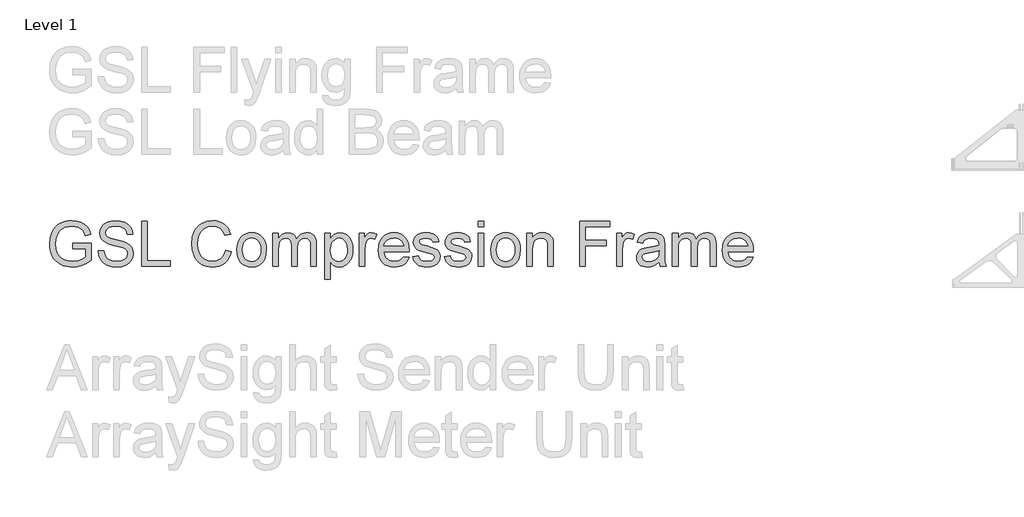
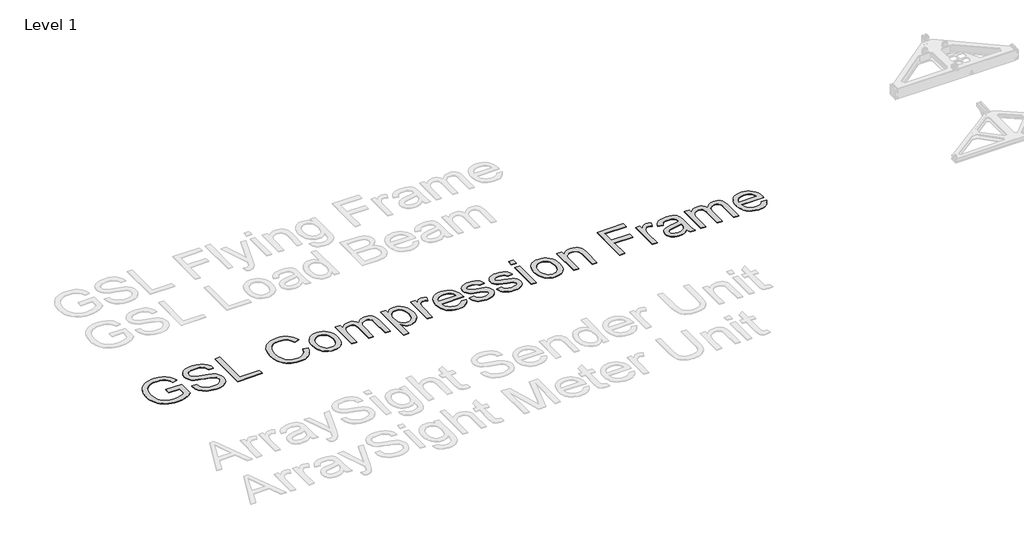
# One storey, part 19 of 52: 1 proxy.
"""IFC4 building model written with IfcOpenShell, lengths in millimetres."""

from ifc_helpers import new_model, si_unit, origin, origin_with_axes, place, context, project, spatial, polyline, outline, extrude, element, save

model = new_model("IFC4")

# Units and contexts
model_context = context("Model", 3, world=origin())
ifc_project = project(units=[si_unit("LENGTHUNIT", "METRE", prefix="MILLI")], contexts=[model_context])

# Site, building, storey
site = spatial("IfcSite", under=ifc_project)
building = spatial("IfcBuilding", under=site)
storey = spatial("IfcBuildingStorey", under=building, Name="Level 1", Elevation=0.0)

# Proxy
placement = place(None, origin())
element("IfcBuildingElementProxy", 1, Name="400mm Arial", ObjectType="400mm Arial", at=placement, inside=storey, context=model_context, shape_type="SweptSolid", body=[
    extrude(outline(polyline([(-18762.7159242, -52399.7229199), (-18762.7159242, -52349.4947649), (-18599.4744202, -52349.4947649), (-18599.4744202, -52499.6887208), (-18639.144362, -52527.2798704), (-18680.0651026, -52547.0719217), (-18722.1385402, -52558.9912984), (-18765.2665727, -52562.9644239), (-18794.1177182, -52561.385597), (-18821.6138317, -52556.6491164), (-18847.7549131, -52548.7549819), (-18872.5409625, -52537.7031936), (-18895.1718366, -52523.6592984), (-18914.847392, -52506.7888433), (-18931.5676286, -52487.0918281), (-18945.3325466, -52464.568253), (-18956.0838979, -52439.9385534), (-18963.7634346, -52413.923165), (-18968.3711566, -52386.5220877), (-18969.9070639, -52357.7353216), (-18963.7879601, -52301.142808), (-18956.1390802, -52274.3272762), (-18945.4306485, -52248.4988945), (-18931.8527372, -52224.7919656), (-18915.5954187, -52204.3407923), (-18896.658693, -52187.1453747), (-18875.0425601, -52173.2057128), (-18851.2160695, -52162.4329017), (-18825.6482709, -52154.7380366), (-18798.3391641, -52150.1211176), (-18769.2887492, -52148.5821446), (-18727.9142875, -52152.1505999), (-18690.709155, -52162.855966), (-18659.3778718, -52179.9256906), (-18635.6249576, -52202.5872215), (-18618.052461, -52231.9319419), (-18605.2624303, -52269.0512353), (-18651.5665107, -52282.0987834), (-18661.9039948, -52255.6235424), (-18674.4732963, -52235.6475501), (-18691.1015625, -52220.5889138), (-18713.6159406, -52208.8657409), (-18740.4590635, -52201.3241599), (-18770.0735641, -52198.8102996), (-18804.7403108, -52201.5203637), (-18834.3793369, -52209.6505558), (-18858.8802778, -52222.1830691), (-18878.1327688, -52238.1000967), (-18892.9093623, -52256.5800356), (-18903.9826104, -52276.8012826), (-18915.7548342, -52314.7176536), (-18919.6789088, -52355.6751824), (-18914.9577566, -52403.7083082), (-18900.7942997, -52443.2310972), (-18877.617734, -52473.9615066), (-18845.8572551, -52495.6174934), (-18808.6889109, -52508.456575), (-18769.2887492, -52512.7362689), (-18734.4993752, -52509.51117), (-18700.5683925, -52499.8358736), (-18671.1010447, -52486.5062826), (-18649.7025753, -52472.3183003), (-18649.7025753, -52399.7229199), (-18762.7159242, -52399.7229199)])), origin_with_axes(), (0.0, 0.0, 1.0), 5.0),
    extrude(outline(polyline([(-18536.6892264, -52418.5584781), (-18486.4610713, -52418.5584781), (-18480.6975867, -52446.4316706), (-18470.2742635, -52468.8356841), (-18454.0138793, -52486.6166472), (-18430.7392118, -52500.6206885), (-18402.2896708, -52509.7073738), (-18370.5046664, -52512.7362689), (-18342.5211093, -52510.4431378), (-18318.0201685, -52503.5637445), (-18298.1668034, -52492.6744374), (-18284.125974, -52478.3515651), (-18275.7750527, -52461.9072399), (-18272.9914122, -52444.6535743), (-18275.0760769, -52427.8413671), (-18281.3300708, -52413.3100283), (-18294.0342624, -52400.9124051), (-18315.46952, -52390.5013446), (-18388.6044606, -52371.3224299), (-18436.613061, -52358.6305011), (-18467.3312076, -52346.5517089), (-18492.3349205, -52329.6536626), (-18510.0545699, -52309.1748982), (-18520.6127832, -52285.5568741), (-18524.1321876, -52259.2410487), (-18519.7789173, -52229.8227518), (-18506.7191065, -52202.3910177), (-18485.2961117, -52179.1408756), (-18455.8532893, -52162.2673548), (-18420.5120923, -52152.0034471), (-18381.3939735, -52148.5821446), (-18339.0139676, -52152.1628627), (-18301.9314625, -52162.9050169), (-18271.4708333, -52180.5878782), (-18248.9564552, -52204.9907172), (-18234.7071593, -52234.592955), (-18229.0417766, -52267.8740129), (-18279.2699316, -52267.8740129), (-18288.491507, -52237.903893), (-18296.854691, -52226.04583), (-18307.7194726, -52216.2724317), (-18337.7631689, -52203.1758327), (-18379.4319362, -52198.8102996), (-18422.0817222, -52203.1267817), (-18438.3850259, -52208.5223843), (-18451.3406035, -52216.076228), (-18468.2631753, -52235.1325153), (-18473.9040325, -52257.7695207), (-18469.9063815, -52277.0710628), (-18457.9134285, -52292.595683), (-18429.5619894, -52306.4770969), (-18375.900269, -52320.6528165), (-18320.521766, -52334.1172975), (-18287.019979, -52345.8649959), (-18258.386497, -52364.0874173), (-18238.4105047, -52386.57727), (-18226.6750691, -52413.0892991), (-18222.7632572, -52443.37825), (-18227.2636802, -52474.3416513), (-18240.7649495, -52503.4656426), (-18262.7152418, -52528.5306692), (-18292.5627344, -52547.3171764), (-18328.4557544, -52559.0526121), (-18368.5426291, -52562.9644239), (-18417.7529773, -52558.7460437), (-18458.256785, -52546.0909031), (-18490.520036, -52524.9499511), (-18515.0087141, -52495.2741368), (-18530.7295381, -52459.1235994), (-18536.6892264, -52418.5584781)])), origin_with_axes(), (0.0, 0.0, 1.0), 5.0),
    extrude(outline(polyline([(-18147.4210246, -52556.6859046), (-18147.4210246, -52154.860664), (-18097.1928695, -52154.860664), (-18097.1928695, -52506.4577495), (-17896.2802492, -52506.4577495), (-17896.2802492, -52556.6859046), (-18147.4210246, -52556.6859046)])), origin_with_axes(), (0.0, 0.0, 1.0), 5.0),
    extrude(outline(polyline([(-17400.2772178, -52413.8495886), (-17350.0490627, -52426.7990348), (-17359.988008, -52458.0352819), (-17373.2256284, -52485.3290602), (-17389.7619241, -52508.6803699), (-17409.596895, -52528.0892108), (-17432.2829514, -52543.3471165), (-17457.3725035, -52554.2456207), (-17484.8655512, -52560.7847231), (-17514.7620947, -52562.9644239), (-17545.3913365, -52561.3150863), (-17573.02234, -52556.3670735), (-17597.6551053, -52548.1203854), (-17619.2896323, -52536.5750222), (-17638.2232923, -52521.9026619), (-17654.7534566, -52504.274983), (-17668.8801252, -52483.6919853), (-17680.6032981, -52460.153669), (-17696.3854357, -52408.2823077), (-17701.6461483, -52352.7321264), (-17695.6987227, -52294.1407873), (-17688.2644407, -52267.843356), (-17677.8564459, -52243.5447503), (-17664.7077303, -52221.6465745), (-17649.0512857, -52202.5504333), (-17630.8871122, -52186.2563266), (-17610.2152097, -52172.7642544), (-17587.7376198, -52162.1845813), (-17564.1563839, -52154.627672), (-17513.6829742, -52148.5821446), (-17484.9544561, -52150.5380505), (-17458.6110395, -52156.4057683), (-17434.6527246, -52166.185298), (-17413.0795113, -52179.8766396), (-17394.2470188, -52197.1180425), (-17378.5108664, -52217.5477559), (-17365.8710542, -52241.16578), (-17356.3275821, -52267.9721147), (-17406.5557372, -52279.9405423), (-17423.9688183, -52243.3117583), (-17447.7585207, -52218.1854181), (-17478.2191499, -52203.6540793), (-17515.6450115, -52198.8102996), (-17558.7853068, -52204.1813768), (-17577.4675808, -52210.8952232), (-17594.2246057, -52220.2946082), (-17621.1167795, -52245.4577366), (-17638.6156998, -52277.978505), (-17648.2174198, -52314.7421791), (-17651.4179932, -52352.6340246), (-17647.6288086, -52399.0362069), (-17636.261255, -52439.1598698), (-17616.8861366, -52471.4721717), (-17589.0742577, -52494.440271), (-17555.7318862, -52508.1622694), (-17519.7652899, -52512.7362689), (-17497.9284278, -52511.1789018), (-17477.8390051, -52506.5068004), (-17459.497022, -52498.7199649), (-17442.9024783, -52487.8183951), (-17428.4477816, -52473.851142), (-17416.5253393, -52456.8672565), (-17407.1351513, -52436.8667387), (-17400.2772178, -52413.8495886)])), origin_with_axes(), (0.0, 0.0, 1.0), 5.0),
    extrude(outline(polyline([(-17299.8209077, -52409.140699), (-17297.1047123, -52370.9238911), (-17288.9561261, -52337.9923212), (-17275.3751491, -52310.3459892), (-17256.3617813, -52287.9848953), (-17237.2196548, -52273.6926798), (-17216.0909656, -52263.4839544), (-17192.9757135, -52257.3587192), (-17167.8738987, -52255.3169741), (-17140.1631874, -52257.8032433), (-17115.1073579, -52265.2620507), (-17092.7064101, -52277.6933965), (-17072.960344, -52295.0972805), (-17056.8440469, -52316.8850917), (-17045.3324061, -52342.4682188), (-17038.4254217, -52371.8466618), (-17036.1230935, -52405.0204207), (-17040.1943209, -52455.7636105), (-17052.4080032, -52494.39122), (-17072.408521, -52523.3190076), (-17099.8402551, -52544.9627316), (-17132.4223371, -52558.4640009), (-17167.8738987, -52562.9644239), (-17195.9892802, -52560.4873518), (-17221.2781017, -52553.0561355), (-17243.7403632, -52540.670775), (-17263.3760647, -52523.3312703), (-17279.3206835, -52501.331927), (-17290.7096969, -52474.9670507), (-17297.543105, -52444.2366414), (-17299.8209077, -52409.140699)]), holes=[polyline([(-17249.5927526, -52409.0425972), (-17248.1396187, -52433.4055823), (-17243.7802171, -52454.500549), (-17236.5145477, -52472.3274974), (-17226.3426105, -52486.8864273), (-17213.9695127, -52498.195733), (-17200.1003615, -52506.2738085), (-17184.7351568, -52511.1206538), (-17167.8738987, -52512.7362689), (-17151.0984798, -52511.1114567), (-17135.7945888, -52506.2370203), (-17121.9622257, -52498.1129596), (-17109.6013907, -52486.7392745), (-17099.4294535, -52472.0362575), (-17092.1637841, -52453.9242006), (-17087.8043825, -52432.4031039), (-17086.3512486, -52407.4729673), (-17087.8135795, -52383.8825344), (-17092.2005723, -52363.3393906), (-17099.512227, -52345.8435361), (-17109.7485435, -52331.3949707), (-17122.1553638, -52320.085665), (-17135.9785298, -52312.0075896), (-17151.2180414, -52307.1607443), (-17167.8738987, -52305.5451292), (-17184.7351568, -52307.1546129), (-17200.1003615, -52311.9830641), (-17213.9695127, -52320.0304827), (-17226.3426105, -52331.2968688), (-17236.5145477, -52345.8128792), (-17243.7802171, -52363.6091708), (-17248.1396187, -52384.6857434), (-17249.5927526, -52409.0425972)])]), origin_with_axes(), (0.0, 0.0, 1.0), 5.0),
    extrude(outline(polyline([(-16979.6164191, -52556.6859046), (-16979.6164191, -52261.5954935), (-16929.388264, -52261.5954935), (-16929.388264, -52310.1559169), (-16914.2805767, -52287.8500052), (-16894.8564074, -52270.3756104), (-16871.7779435, -52259.0816332), (-16845.7073728, -52255.3169741), (-16817.7728667, -52259.1552096), (-16795.3811159, -52270.669916), (-16778.6547478, -52289.100804), (-16767.7163898, -52313.687584), (-16749.4081292, -52288.1504422), (-16728.5246946, -52269.9096266), (-16705.0660861, -52258.9651372), (-16679.0323035, -52255.3169741), (-16658.9244868, -52256.8344873), (-16641.2753481, -52261.387027), (-16626.0848874, -52268.9745932), (-16613.3531047, -52279.5971858), (-16603.2884664, -52293.3774322), (-16596.0994391, -52310.4379597), (-16591.7860227, -52330.7787684), (-16590.3482172, -52354.3998581), (-16590.3482172, -52556.6859046), (-16640.5763723, -52556.6859046), (-16640.5763723, -52375.9822685), (-16641.741332, -52350.9295047), (-16645.2362109, -52334.0437211), (-16651.7845104, -52322.4799637), (-16662.1097318, -52313.3932784), (-16675.3902718, -52307.5071665), (-16690.8045274, -52305.5451292), (-16718.0155323, -52310.5728498), (-16740.1988166, -52325.6560116), (-16748.8041896, -52337.2259003), (-16754.9508846, -52351.8246842), (-16759.8682406, -52390.1089371), (-16759.8682406, -52556.6859046), (-16810.0963957, -52556.6859046), (-16810.0963957, -52370.3904622), (-16813.0026635, -52341.9899722), (-16821.7214667, -52321.731937), (-16837.0621459, -52309.5918311), (-16859.8340414, -52305.5451292), (-16879.1846344, -52308.2429305), (-16897.0146484, -52316.3363344), (-16911.7299282, -52329.6291371), (-16921.7363185, -52347.925135), (-16927.4752776, -52373.3089927), (-16929.388264, -52407.8653748), (-16929.388264, -52556.6859046), (-16979.6164191, -52556.6859046)])), origin_with_axes(), (0.0, 0.0, 1.0), 5.0),
    extrude(outline(polyline([(-16515.0059846, -52669.6992535), (-16515.0059846, -52261.5954935), (-16464.7778296, -52261.5954935), (-16464.7778296, -52310.8426299), (-16448.394818, -52286.5501555), (-16430.0497692, -52269.1983881), (-16408.6635626, -52258.7873276), (-16383.1570776, -52255.3169741), (-16349.1893067, -52260.1730164), (-16319.4889669, -52274.7411435), (-16295.3068571, -52298.1384383), (-16277.893776, -52329.4819843), (-16267.3723509, -52366.4909131), (-16263.8652093, -52406.8843561), (-16267.8260721, -52449.8407104), (-16279.7086605, -52488.2598535), (-16299.1328299, -52520.1920106), (-16325.7184354, -52543.6874074), (-16356.6818366, -52558.1451698), (-16389.2393932, -52562.9644239), (-16412.3301198, -52559.7393251), (-16432.9437742, -52550.0640286), (-16450.5898473, -52535.4591134), (-16464.7778296, -52517.4451584), (-16464.7778296, -52669.6992535), (-16515.0059846, -52669.6992535)]), holes=[polyline([(-16464.7778296, -52411.4951438), (-16459.3454388, -52456.5239), (-16452.5549503, -52473.9615066), (-16443.0482664, -52488.0145988), (-16419.0010466, -52506.5558513), (-16405.2391943, -52511.1911645), (-16390.3185137, -52512.7362689), (-16375.1832353, -52511.1359822), (-16361.169997, -52506.3351222), (-16348.2787987, -52498.3336888), (-16336.5096406, -52487.131682), (-16326.7025197, -52472.5696864), (-16319.6974334, -52454.4882863), (-16315.4943816, -52432.8874818), (-16314.0933643, -52407.7672729), (-16319.5625433, -52362.9837714), (-16326.3990171, -52345.4112747), (-16335.9700803, -52331.0516142), (-16359.9805119, -52311.9217504), (-16373.5860143, -52307.1392845), (-16388.2583746, -52305.5451292), (-16402.8847495, -52307.240452), (-16416.6466018, -52312.3264206), (-16441.5767384, -52332.670295), (-16451.7272158, -52347.7687852), (-16458.9775568, -52365.9390901), (-16463.3277614, -52387.1812096), (-16464.7778296, -52411.4951438)])]), origin_with_axes(), (0.0, 0.0, 1.0), 5.0),
    extrude(outline(polyline([(-16207.3585348, -52556.6859046), (-16207.3585348, -52261.5954935), (-16163.4088991, -52261.5954935), (-16163.4088991, -52305.2508236), (-16147.1730404, -52279.9405423), (-16132.2125059, -52265.0290588), (-16117.2029205, -52257.7449953), (-16100.819909, -52255.3169741), (-16075.8039333, -52259.1919978), (-16050.3955502, -52270.8170688), (-16067.1709692, -52315.845825), (-16084.8293049, -52308.1203031), (-16102.4876407, -52305.5451292), (-16117.4849634, -52308.0222013), (-16130.8881307, -52315.4534176), (-16141.7161241, -52327.2746924), (-16148.9879249, -52342.9219399), (-16155.094766, -52370.9790734), (-16157.1303797, -52401.5868554), (-16157.1303797, -52556.6859046), (-16207.3585348, -52556.6859046)])), origin_with_axes(), (0.0, 0.0, 1.0), 5.0),
    extrude(outline(polyline([(-15812.4004248, -52468.7866332), (-15763.1532883, -52475.0651526), (-15770.7040663, -52494.7897589), (-15780.8974632, -52512.1721831), (-15793.7334792, -52527.2124254), (-15809.2121141, -52539.9104856), (-15827.1739526, -52549.9965836), (-15847.4595789, -52557.2009394), (-15895.0021954, -52562.9644239), (-15926.1679318, -52560.4781548), (-15953.936891, -52553.0193473), (-15978.3090732, -52540.5880016), (-15999.2844783, -52523.1841175), (-16016.1518678, -52501.2920731), (-16028.2000031, -52475.3962464), (-16035.4288843, -52445.4966372), (-16037.8385114, -52411.5932457), (-16035.4043589, -52376.5402229), (-16028.1019013, -52345.6442667), (-16015.9311386, -52318.905377), (-15998.8920709, -52296.3235538), (-15977.9718481, -52278.3831752), (-15954.1576202, -52265.568619), (-15927.4493874, -52257.8798853), (-15897.8471495, -52255.3169741), (-15869.1983391, -52257.873754), (-15843.2902496, -52265.5440936), (-15820.122881, -52278.3279929), (-15799.6962332, -52296.225452), (-15783.0219818, -52318.7582242), (-15771.1118022, -52345.4480629), (-15763.9656944, -52376.2949682), (-15761.5836585, -52411.2989401), (-15761.8779641, -52424.8369975), (-15987.6103563, -52424.8369975), (-15984.7010229, -52444.8804349), (-15978.9160785, -52462.4345374), (-15970.2555232, -52477.4993051), (-15958.719357, -52490.074738), (-15944.9452419, -52499.9891577), (-15929.5708402, -52507.0708861), (-15894.0211768, -52512.7362689), (-15867.2884185, -52510.112044), (-15844.7740403, -52502.2393693), (-15826.4780425, -52488.6277354), (-15812.4004248, -52468.7866332)]), holes=[polyline([(-15987.6103563, -52374.6088424), (-15811.8118136, -52374.6088424), (-15818.6053678, -52348.0722878), (-15831.922696, -52329.0895769), (-15845.6201689, -52318.788881), (-15861.2061028, -52311.4312411), (-15878.6804976, -52307.0166572), (-15898.0433532, -52305.5451292), (-15931.9007595, -52310.241756), (-15959.8965794, -52324.3316364), (-15979.3575369, -52346.2941915), (-15987.6103563, -52374.6088424)])]), origin_with_axes(), (0.0, 0.0, 1.0), 5.0),
    extrude(outline(polyline([(-15730.1910616, -52468.7866332), (-15679.9629065, -52462.5081138), (-15672.0411809, -52483.9924223), (-15656.7127644, -52499.7868226), (-15633.8795552, -52509.4989073), (-15603.4434515, -52512.7362689), (-15573.3752298, -52509.7686874), (-15552.2342778, -52500.8659432), (-15539.7262899, -52487.9655479), (-15535.5569607, -52473.0050134), (-15539.7508154, -52460.20272), (-15552.3323796, -52450.4415843), (-15604.0320627, -52436.118712), (-15679.6686009, -52411.5441947), (-15698.8107274, -52399.1956224), (-15712.6798786, -52382.8493991), (-15721.1043763, -52363.5478571), (-15723.9125422, -52342.3333287), (-15721.6561993, -52322.8723712), (-15714.8871706, -52304.9074671), (-15704.2185927, -52289.1498549), (-15690.2636024, -52276.3107733), (-15658.3314452, -52261.4483407), (-15637.4480106, -52256.8498158), (-15615.1175735, -52255.3169741), (-15582.4251269, -52257.7817835), (-15554.0001114, -52265.1762116), (-15531.1423767, -52276.7767572), (-15515.1517727, -52291.859919), (-15504.5567712, -52311.5416057), (-15497.8858444, -52336.9377261), (-15548.1139994, -52343.2162455), (-15554.4538325, -52327.4095824), (-15566.9986085, -52315.5024685), (-15585.8709549, -52308.034464), (-15611.1934989, -52305.5451292), (-15640.0354473, -52307.9240994), (-15659.2634129, -52315.0610101), (-15670.0791436, -52325.361706), (-15673.6843871, -52337.2320317), (-15667.7001733, -52351.8492096), (-15648.962717, -52362.9347204), (-15605.6997944, -52373.6278238), (-15531.9762426, -52397.2703733), (-15512.5030223, -52408.5766133), (-15497.7386916, -52424.0521826), (-15488.4312771, -52443.746132), (-15485.3288056, -52467.7075127), (-15488.9708373, -52492.4782337), (-15499.8969326, -52515.7774267), (-15517.6901584, -52535.7779445), (-15541.9335819, -52550.6526398), (-15571.2169887, -52559.8864779), (-15604.1301646, -52562.9644239), (-15631.1633598, -52561.4806332), (-15654.7752526, -52557.0292611), (-15674.9658427, -52549.6103075), (-15691.7351304, -52539.2237725), (-15705.4326033, -52525.918707), (-15716.4077495, -52509.744162), (-15724.6605689, -52490.7001374), (-15730.1910616, -52468.7866332)])), origin_with_axes(), (0.0, 0.0, 1.0), 5.0),
    extrude(outline(polyline([(-15447.6576893, -52468.7866332), (-15397.4295342, -52462.5081138), (-15389.5078086, -52483.9924223), (-15374.1793921, -52499.7868226), (-15351.3461829, -52509.4989073), (-15320.9100792, -52512.7362689), (-15290.8418575, -52509.7686874), (-15269.7009055, -52500.8659432), (-15257.1929176, -52487.9655479), (-15253.0235884, -52473.0050134), (-15257.2174431, -52460.20272), (-15269.7990074, -52450.4415843), (-15321.4986904, -52436.118712), (-15397.1352286, -52411.5441947), (-15416.2773551, -52399.1956224), (-15430.1465063, -52382.8493991), (-15438.571004, -52363.5478571), (-15441.3791699, -52342.3333287), (-15439.122827, -52322.8723712), (-15432.3537983, -52304.9074671), (-15421.6852204, -52289.1498549), (-15407.7302301, -52276.3107733), (-15375.7980729, -52261.4483407), (-15354.9146383, -52256.8498158), (-15332.5842012, -52255.3169741), (-15299.8917546, -52257.7817835), (-15271.4667391, -52265.1762116), (-15248.6090044, -52276.7767572), (-15232.6184004, -52291.859919), (-15222.0233989, -52311.5416057), (-15215.3524721, -52336.9377261), (-15265.5806271, -52343.2162455), (-15271.9204602, -52327.4095824), (-15284.4652362, -52315.5024685), (-15303.3375826, -52308.034464), (-15328.6601266, -52305.5451292), (-15357.502075, -52307.9240994), (-15376.7300406, -52315.0610101), (-15387.5457713, -52325.361706), (-15391.1510148, -52337.2320317), (-15385.166801, -52351.8492096), (-15366.4293448, -52362.9347204), (-15323.1664221, -52373.6278238), (-15249.4428703, -52397.2703733), (-15229.96965, -52408.5766133), (-15215.2053193, -52424.0521826), (-15205.8979048, -52443.746132), (-15202.7954333, -52467.7075127), (-15206.437465, -52492.4782337), (-15217.3635603, -52515.7774267), (-15235.1567861, -52535.7779445), (-15259.4002096, -52550.6526398), (-15288.6836164, -52559.8864779), (-15321.5967923, -52562.9644239), (-15348.6299876, -52561.4806332), (-15372.2418803, -52557.0292611), (-15392.4324704, -52549.6103075), (-15409.2017581, -52539.2237725), (-15422.899231, -52525.918707), (-15433.8743772, -52509.744162), (-15442.1271966, -52490.7001374), (-15447.6576893, -52468.7866332)])), origin_with_axes(), (0.0, 0.0, 1.0), 5.0),
    extrude(outline(polyline([(-15146.2887588, -52205.088819), (-15146.2887588, -52154.860664), (-15096.0606038, -52154.860664), (-15096.0606038, -52205.088819), (-15146.2887588, -52205.088819)])), origin_with_axes(), (0.0, 0.0, 1.0), 5.0),
    extrude(outline(polyline([(-15146.2887588, -52556.6859046), (-15146.2887588, -52261.5954935), (-15096.0606038, -52261.5954935), (-15096.0606038, -52556.6859046), (-15146.2887588, -52556.6859046)])), origin_with_axes(), (0.0, 0.0, 1.0), 5.0),
    extrude(outline(polyline([(-15033.2754099, -52409.140699), (-15030.5592145, -52370.9238911), (-15022.4106283, -52337.9923212), (-15008.8296513, -52310.3459892), (-14989.8162836, -52287.9848953), (-14970.6741571, -52273.6926798), (-14949.5454678, -52263.4839544), (-14926.4302158, -52257.3587192), (-14901.328401, -52255.3169741), (-14873.6176897, -52257.8032433), (-14848.5618601, -52265.2620507), (-14826.1609123, -52277.6933965), (-14806.4148462, -52295.0972805), (-14790.2985492, -52316.8850917), (-14778.7869084, -52342.4682188), (-14771.8799239, -52371.8466618), (-14769.5775958, -52405.0204207), (-14773.6488232, -52455.7636105), (-14785.8625054, -52494.39122), (-14805.8630232, -52523.3190076), (-14833.2947573, -52544.9627316), (-14865.8768394, -52558.4640009), (-14901.328401, -52562.9644239), (-14929.4437825, -52560.4873518), (-14954.7326039, -52553.0561355), (-14977.1948654, -52540.670775), (-14996.8305669, -52523.3312703), (-15012.7751857, -52501.331927), (-15024.1641992, -52474.9670507), (-15030.9976072, -52444.2366414), (-15033.2754099, -52409.140699)]), holes=[polyline([(-14983.0472548, -52409.0425972), (-14981.594121, -52433.4055823), (-14977.2347193, -52454.500549), (-14969.9690499, -52472.3274974), (-14959.7971127, -52486.8864273), (-14947.424015, -52498.195733), (-14933.5548638, -52506.2738085), (-14918.1896591, -52511.1206538), (-14901.328401, -52512.7362689), (-14884.552982, -52511.1114567), (-14869.249091, -52506.2370203), (-14855.416728, -52498.1129596), (-14843.0558929, -52486.7392745), (-14832.8839558, -52472.0362575), (-14825.6182864, -52453.9242006), (-14821.2588847, -52432.4031039), (-14819.8057509, -52407.4729673), (-14821.2680818, -52383.8825344), (-14825.6550746, -52363.3393906), (-14832.9667292, -52345.8435361), (-14843.2030457, -52331.3949707), (-14855.609866, -52320.085665), (-14869.433032, -52312.0075896), (-14884.6725436, -52307.1607443), (-14901.328401, -52305.5451292), (-14918.1896591, -52307.1546129), (-14933.5548638, -52311.9830641), (-14947.424015, -52320.0304827), (-14959.7971127, -52331.2968688), (-14969.9690499, -52345.8128792), (-14977.2347193, -52363.6091708), (-14981.594121, -52384.6857434), (-14983.0472548, -52409.0425972)])]), origin_with_axes(), (0.0, 0.0, 1.0), 5.0),
    extrude(outline(polyline([(-14713.0709213, -52556.6859046), (-14713.0709213, -52261.5954935), (-14662.8427662, -52261.5954935), (-14662.8427662, -52302.798277), (-14645.3928969, -52282.025207), (-14624.4358859, -52267.1872998), (-14599.9717333, -52258.2845555), (-14572.0004389, -52255.3169741), (-14547.2419806, -52257.7082071), (-14524.568187, -52264.881906), (-14505.6590524, -52275.9428913), (-14492.1945714, -52289.9959835), (-14483.0588352, -52307.0043944), (-14477.1359351, -52326.9313358), (-14474.4871847, -52375.4917592), (-14474.4871847, -52556.6859046), (-14524.7153398, -52556.6859046), (-14524.7153398, -52382.2607879), (-14526.1623423, -52356.2883191), (-14530.5033498, -52337.8206429), (-14538.5109146, -52324.5891538), (-14550.9575888, -52314.3252461), (-14566.9114046, -52307.7401584), (-14585.4403945, -52305.5451292), (-14614.8586913, -52310.4747479), (-14639.9359807, -52325.2636041), (-14649.9576994, -52337.3362649), (-14657.1160699, -52353.8357724), (-14661.4110921, -52374.7621266), (-14662.8427662, -52400.1153274), (-14662.8427662, -52556.6859046), (-14713.0709213, -52556.6859046)])), origin_with_axes(), (0.0, 0.0, 1.0), 5.0),
    extrude(outline(polyline([(-14242.1819675, -52556.6859046), (-14242.1819675, -52154.860664), (-13972.205634, -52154.860664), (-13972.205634, -52205.088819), (-14191.9538124, -52205.088819), (-14191.9538124, -52324.3806873), (-14003.5982309, -52324.3806873), (-14003.5982309, -52374.6088424), (-14191.9538124, -52374.6088424), (-14191.9538124, -52556.6859046), (-14242.1819675, -52556.6859046)])), origin_with_axes(), (0.0, 0.0, 1.0), 5.0),
    extrude(outline(polyline([(-13909.4204401, -52556.6859046), (-13909.4204401, -52261.5954935), (-13865.4708044, -52261.5954935), (-13865.4708044, -52305.2508236), (-13849.2349457, -52279.9405423), (-13834.2744112, -52265.0290588), (-13819.2648258, -52257.7449953), (-13802.8818143, -52255.3169741), (-13777.8658386, -52259.1919978), (-13752.4574555, -52270.8170688), (-13769.2328745, -52315.845825), (-13786.8912103, -52308.1203031), (-13804.549546, -52305.5451292), (-13819.5468687, -52308.0222013), (-13832.9500361, -52315.4534176), (-13843.7780294, -52327.2746924), (-13851.0498302, -52342.9219399), (-13857.1566713, -52370.9790734), (-13859.192285, -52401.5868554), (-13859.192285, -52556.6859046), (-13909.4204401, -52556.6859046)])), origin_with_axes(), (0.0, 0.0, 1.0), 5.0),
    extrude(outline(polyline([(-13532.7092771, -52519.0147883), (-13556.7074459, -52539.5916545), (-13581.4168532, -52553.0561355), (-13607.4015848, -52560.4873518), (-13635.2257264, -52562.9644239), (-13657.589886, -52561.4745019), (-13677.201062, -52557.0047356), (-13694.0592545, -52549.5551252), (-13708.1644633, -52539.1256707), (-13719.3020907, -52526.3785595), (-13727.2575388, -52511.9759794), (-13732.0308077, -52495.9179303), (-13733.6218974, -52478.2044123), (-13731.2184017, -52457.3822913), (-13724.0079146, -52438.4731568), (-13712.8856156, -52422.286349), (-13698.7466842, -52409.6312084), (-13682.1306808, -52400.0662765), (-13663.5771655, -52393.150095), (-13620.1180391, -52385.5962513), (-13568.7617126, -52377.6500002), (-13533.0035827, -52368.330323), (-13532.7092771, -52357.1467104), (-13536.1673678, -52334.7304341), (-13546.5416401, -52320.0642053), (-13569.7427312, -52309.1748982), (-13602.0672959, -52305.5451292), (-13631.9883648, -52307.9608876), (-13652.8840621, -52315.2081629), (-13667.1333581, -52328.6113303), (-13677.1152229, -52349.4947649), (-13727.343378, -52343.2162455), (-13718.6245747, -52315.7477232), (-13705.6138148, -52294.1653128), (-13687.0970877, -52277.6596739), (-13661.8603828, -52265.4214662), (-13630.9950834, -52257.8430971), (-13595.5925728, -52255.3169741), (-13561.6370646, -52257.5487915), (-13534.7203653, -52264.2442439), (-13514.4255419, -52274.3119478), (-13500.3356615, -52286.6605201), (-13490.9914588, -52301.9276229), (-13484.9336686, -52320.7509183), (-13482.481122, -52364.700554), (-13482.481122, -52427.1914423), (-13479.9304735, -52514.4530515), (-13469.9240832, -52556.6859046), (-13520.1522383, -52556.6859046), (-13528.1965913, -52539.2237725), (-13532.7092771, -52519.0147883)]), holes=[polyline([(-13532.7092771, -52418.5584781), (-13566.4563187, -52426.9216621), (-13613.7414179, -52433.960471), (-13656.9552896, -52442.1029258), (-13668.2002159, -52447.6702067), (-13676.5266117, -52455.3466776), (-13681.6769596, -52464.5437275), (-13683.3937423, -52474.6727451), (-13679.6536087, -52489.6087541), (-13668.4332078, -52501.8469618), (-13649.9777944, -52510.0139421), (-13624.5326231, -52512.7362689), (-13597.5546101, -52509.7318992), (-13573.7158568, -52500.7187904), (-13554.3897893, -52487.4382503), (-13540.9498338, -52471.6315873), (-13534.9901454, -52455.3466776), (-13533.0035827, -52432.7832486), (-13532.7092771, -52418.5584781)])]), origin_with_axes(), (0.0, 0.0, 1.0), 5.0),
    extrude(outline(polyline([(-13413.4174088, -52556.6859046), (-13413.4174088, -52261.5954935), (-13363.1892537, -52261.5954935), (-13363.1892537, -52310.1559169), (-13348.0815664, -52287.8500052), (-13328.6573971, -52270.3756104), (-13305.5789332, -52259.0816332), (-13279.5083625, -52255.3169741), (-13251.5738563, -52259.1552096), (-13229.1821056, -52270.669916), (-13212.4557375, -52289.100804), (-13201.5173795, -52313.687584), (-13183.2091189, -52288.1504422), (-13162.3256843, -52269.9096266), (-13138.8670758, -52258.9651372), (-13112.8332932, -52255.3169741), (-13092.7254765, -52256.8344873), (-13075.0763378, -52261.387027), (-13059.8858771, -52268.9745932), (-13047.1540944, -52279.5971858), (-13037.0894561, -52293.3774322), (-13029.9004288, -52310.4379597), (-13025.5870124, -52330.7787684), (-13024.1492069, -52354.3998581), (-13024.1492069, -52556.6859046), (-13074.377362, -52556.6859046), (-13074.377362, -52375.9822685), (-13075.5423217, -52350.9295047), (-13079.0372006, -52334.0437211), (-13085.5855001, -52322.4799637), (-13095.9107215, -52313.3932784), (-13109.1912615, -52307.5071665), (-13124.6055171, -52305.5451292), (-13151.816522, -52310.5728498), (-13173.9998063, -52325.6560116), (-13182.6051793, -52337.2259003), (-13188.7518743, -52351.8246842), (-13193.6692303, -52390.1089371), (-13193.6692303, -52556.6859046), (-13243.8973854, -52556.6859046), (-13243.8973854, -52370.3904622), (-13246.8036531, -52341.9899722), (-13255.5224564, -52321.731937), (-13270.8631356, -52309.5918311), (-13293.6350311, -52305.5451292), (-13312.9856241, -52308.2429305), (-13330.8156381, -52316.3363344), (-13345.5309179, -52329.6291371), (-13355.5373082, -52347.925135), (-13361.2762673, -52373.3089927), (-13363.1892537, -52407.8653748), (-13363.1892537, -52556.6859046), (-13413.4174088, -52556.6859046)])), origin_with_axes(), (0.0, 0.0, 1.0), 5.0),
    extrude(outline(polyline([(-12742.2044458, -52468.7866332), (-12692.9573094, -52475.0651526), (-12700.5080874, -52494.7897589), (-12710.7014843, -52512.1721831), (-12723.5375003, -52527.2124254), (-12739.0161352, -52539.9104856), (-12756.9779736, -52549.9965836), (-12777.2636, -52557.2009394), (-12824.8062165, -52562.9644239), (-12855.9719528, -52560.4781548), (-12883.7409121, -52553.0193473), (-12908.1130943, -52540.5880016), (-12929.0884994, -52523.1841175), (-12945.9558889, -52501.2920731), (-12958.0040242, -52475.3962464), (-12965.2329054, -52445.4966372), (-12967.6425325, -52411.5932457), (-12965.2083799, -52376.5402229), (-12957.9059223, -52345.6442667), (-12945.7351597, -52318.905377), (-12928.6960919, -52296.3235538), (-12907.7758691, -52278.3831752), (-12883.9616413, -52265.568619), (-12857.2534084, -52257.8798853), (-12827.6511706, -52255.3169741), (-12799.0023602, -52257.873754), (-12773.0942707, -52265.5440936), (-12749.926902, -52278.3279929), (-12729.5002543, -52296.225452), (-12712.8260028, -52318.7582242), (-12700.9158232, -52345.4480629), (-12693.7697155, -52376.2949682), (-12691.3876796, -52411.2989401), (-12691.6819852, -52424.8369975), (-12917.4143774, -52424.8369975), (-12914.5050439, -52444.8804349), (-12908.7200996, -52462.4345374), (-12900.0595443, -52477.4993051), (-12888.523378, -52490.074738), (-12874.749263, -52499.9891577), (-12859.3748613, -52507.0708861), (-12823.8251978, -52512.7362689), (-12797.0924395, -52510.112044), (-12774.5780614, -52502.2393693), (-12756.2820635, -52488.6277354), (-12742.2044458, -52468.7866332)]), holes=[polyline([(-12917.4143774, -52374.6088424), (-12741.6158346, -52374.6088424), (-12748.4093888, -52348.0722878), (-12761.726717, -52329.0895769), (-12775.42419, -52318.788881), (-12791.0101238, -52311.4312411), (-12808.4845186, -52307.0166572), (-12827.8473743, -52305.5451292), (-12861.7047806, -52310.241756), (-12889.7006004, -52324.3316364), (-12909.161558, -52346.2941915), (-12917.4143774, -52374.6088424)])]), origin_with_axes(), (0.0, 0.0, 1.0), 5.0),
])

save(model, "model.ifc")
